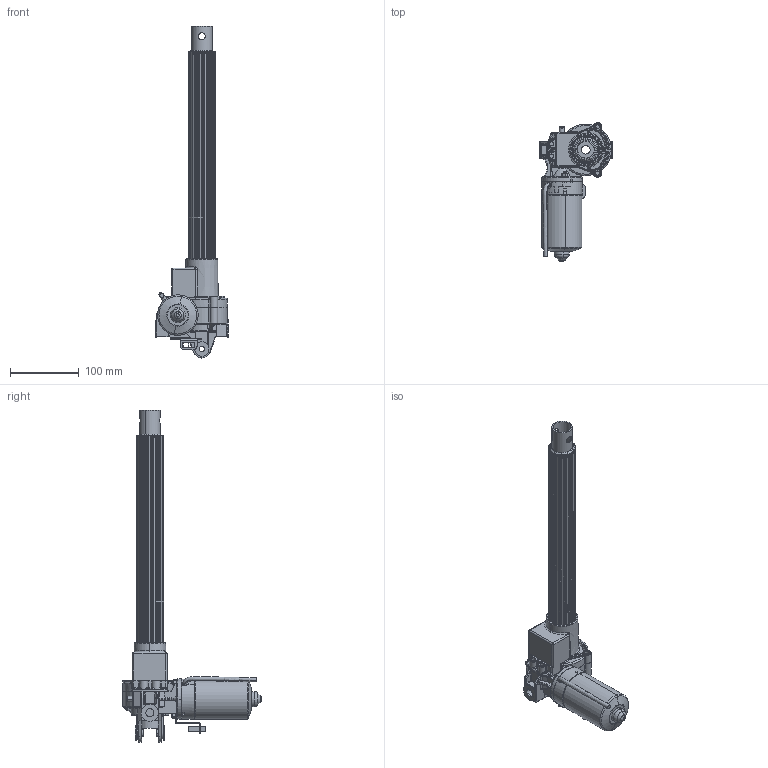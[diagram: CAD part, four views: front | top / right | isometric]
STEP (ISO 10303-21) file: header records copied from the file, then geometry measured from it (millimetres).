
FILE_DESCRIPTION (( 'STEP AP203' ), '1' );
FILE_NAME ('200S.STEP', '2011-11-17T13:13:19', ( 'PC' ), ( 'PC' ), 'SwSTEP 2.0', 'SolidWorks 2007', '' );
FILE_SCHEMA (( 'CONFIG_CONTROL_DESIGN' ));
Length unit declared in the file: millimetre
Products named in the file (19): Adapter 200er_niedriges Niveau; Getriebedeckel 200er_200 S; Stecker mit Halterung_ohne Kabel; Kabel f黵 mit Hallgeber_Standard; 160er-Rohr_Standard; DIN 913 Madenschraube_M6 x 6; 200S; Getriebegehäuse 200er_Standard; motor_drhm_59er_Standard; DIN 912 M5 x 8 --- 8N_DIN 912 M5 x 8 --- 8N; Anlaufschraube_Standard; ISO 4018 - M5 x 25-NN_ISO 4018 - M5 x 25-NN; prevailing torque nut style 2_DIN_DIN EN ISO 7042 - M5 - N; Schubstange kpl._Standard; Schubstange_Standard; Mutter_Standard; Buchse_Katalog; Buchse_Katalog gross; Schubrohrabdichtung_Standard
Assembly tree (26 placements, depth 3):
  200S
    ISO 4018 - M5 x 25-NN_ISO 4018 - M5 x 25-NN  x2
    Stecker mit Halterung_ohne Kabel
    Schubstange kpl._Standard
      Schubstange_Standard
      DIN 913 Madenschraube_M6 x 6  x2
      Mutter_Standard
    DIN 912 M5 x 8 --- 8N_DIN 912 M5 x 8 --- 8N  x4
    Getriebegehäuse 200er_Standard
    160er-Rohr_Standard
    Getriebedeckel 200er_200 S
    motor_drhm_59er_Standard
    Buchse_Katalog  x2
    Buchse_Katalog gross  x2
    prevailing torque nut style 2_DIN_DIN EN ISO 7042 - M5 - N  x2
    Schubrohrabdichtung_Standard
    Adapter 200er_niedriges Niveau
    Anlaufschraube_Standard
    Kabel f黵 mit Hallgeber_Standard
Bounding box: 105.5 x 202.56 x 484 mm (x, y, z)
Volume: 618949.4 mm3; surface area: 323198.6 mm2
Topology: 25 solids, 25 shells, 2414 faces, 5887 edges, 3449 vertices
Faces by surface type: cylinder 996, plane 529, torus 418, bspline 187, sphere 153, cone 131
Entity records: 75534 total; most frequent: CARTESIAN_POINT 20779, DIRECTION 11817, ORIENTED_EDGE 10804, EDGE_CURVE 5402, AXIS2_PLACEMENT_3D 4914, VERTEX_POINT 3199, CIRCLE 2814, EDGE_LOOP 2357
